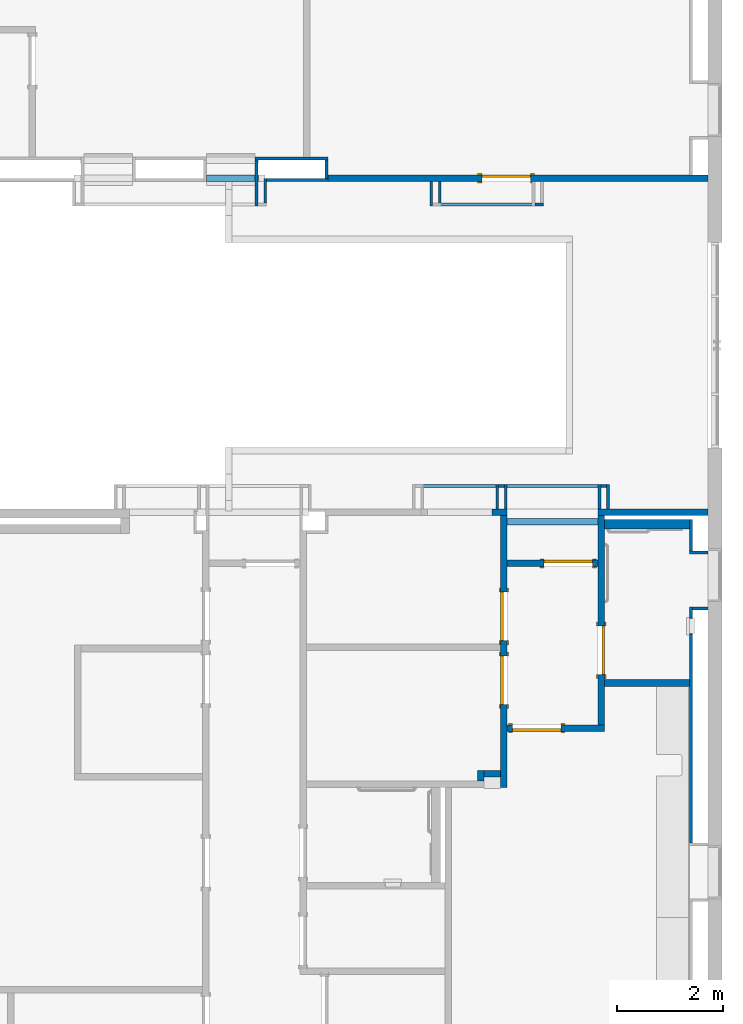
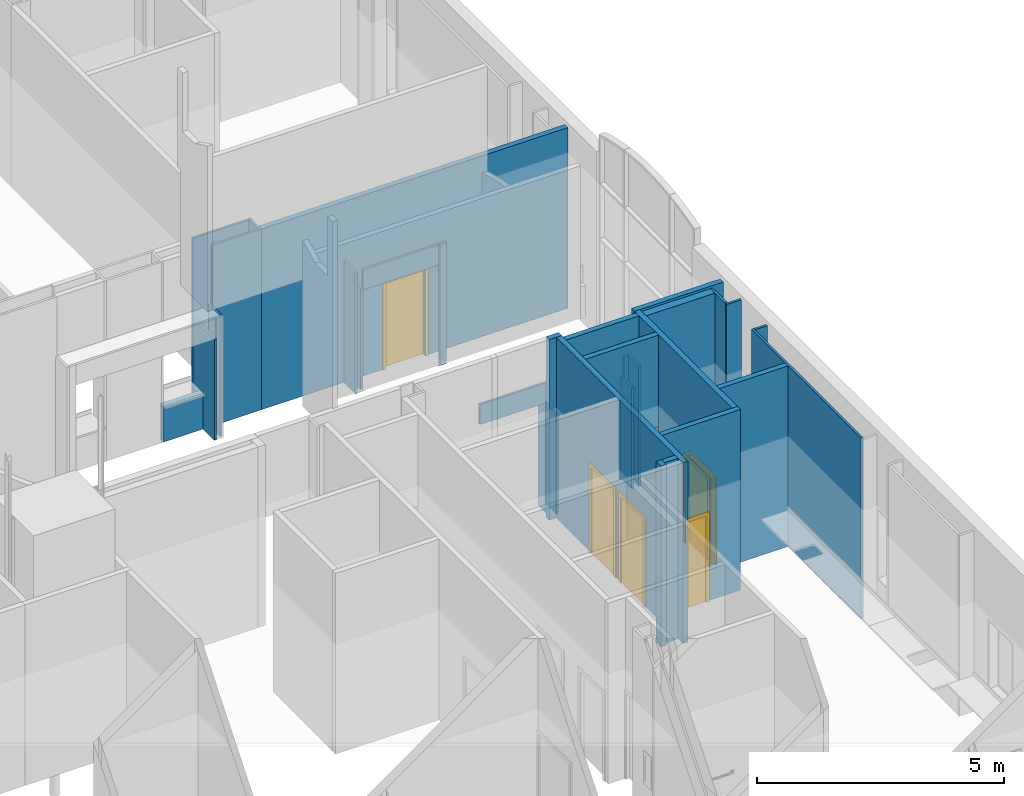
# One storey, part 38 of 87: 33 walls, 6 doors, 7 openings.
"""IFC2X3 building model written with IfcOpenShell, lengths in metres."""

from ifc_helpers import new_model, entity, si_unit, converted_unit, frame, frame_2d, origin, origin_2d_with_axis, place, context, project, spatial, polyline, rectangle, outline, extrude, source, transform, mapped, material, layer, layer_set, layer_usage, type_object, type_shapes, element, fill, save


model = new_model("IFC2X3")

# Units and contexts
model_context = context("Model", 3, precision=1e-09, world=origin())
plan_context = context("Plan", 3, precision=1e-09, world=origin())
ifc_project = project(units=[si_unit("LENGTHUNIT", "METRE"), si_unit("AREAUNIT", "SQUARE_METRE"), si_unit("VOLUMEUNIT", "CUBIC_METRE"), converted_unit("PLANEANGLEUNIT", "DEGREE", entity("IfcRatioMeasure", 0.01745329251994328), si_unit("PLANEANGLEUNIT", "RADIAN"), dimensions=[0, 0, 0, 0, 0, 0, 0]), si_unit("TIMEUNIT", "SECOND")], contexts=[model_context, plan_context])

# Site, building, storey
site_placement = place(None, origin())
site = spatial("IfcSite", under=ifc_project, at=site_placement, Name="Default", CompositionType="ELEMENT")
building_placement = place(site_placement, origin())
building = spatial("IfcBuilding", under=site, at=building_placement, CompositionType="ELEMENT")
storey_placement = place(building_placement, origin())
storey = spatial("IfcBuildingStorey", under=building, at=storey_placement, Name="First Floor", CompositionType="ELEMENT", Elevation=-3.531500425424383e-13)

# Wall, opening, door
ifc_material_1 = material(Name="Plasterboard")
ifc_layer_1 = layer(ifc_material_1, 0.016)
ifc_material_2 = material(Name="Metal - Stud Layer")
ifc_layer_2 = layer(ifc_material_2, 0.092)
ifc_layer_3 = layer(ifc_material_1, 0.016)
ifc_layer_set_1 = layer_set([ifc_layer_1, ifc_layer_2, ifc_layer_3], Name="Basic Wall:Interior - Partition (92mm Stud)")
ifc_layer_usage_1 = layer_usage(ifc_layer_set_1, "AXIS2", "NEGATIVE", 0.062)
wall_1_placement = place(storey_placement, frame((0.1129999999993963, 34.84199999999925, 0.0), z_axis=(0.0, 0.0, 1.0), x_axis=(-1.0, 0.0, 0.0)))
wall_1 = element("IfcWallStandardCase", 1, at=wall_1_placement, inside=storey, material=ifc_layer_usage_1, Name="Basic Wall:Interior - Partition (92mm Stud)", ObjectType="Basic Wall:Interior - Partition (92mm Stud)", context=model_context, shape_type="SweptSolid", body=[
    extrude(rectangle(XDim=7.162999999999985, YDim=0.1239999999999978, at=frame_2d((3.581499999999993, 0.0), x_axis=(-1.0, 0.0))), origin(), (0.0, 0.0, 1.0), 4.46800000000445),
])
opening_1_placement = place(wall_1_placement, frame((4.262999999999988, 0.06199999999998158, 0.0)))
opening_1 = element("IfcOpeningElement", 2, at=opening_1_placement, cuts=wall_1, Name="M_Single-Flush:0915 x 2134mm:0915 x 2134mm:1", ObjectType="Opening", context=model_context, shape_type="SweptSolid", body=[
    extrude(rectangle(XDim=0.9149999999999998, YDim=2.134, at=frame_2d((1.067, 0.4575), x_axis=(0.0, 1.0))), frame((0.0, 0.0, 0.0), z_axis=(0.0, -1.0, 0.0), x_axis=(0.0, 0.0, 1.0)), (0.0, 0.0, 1.0), 0.124),
])
door_style_1 = type_object("IfcDoorStyle", Name="0915 x 2134mm", ConstructionType="NOTDEFINED", OperationType="SINGLE_SWING_RIGHT", ParameterTakesPrecedence=False, Sizeable=False)
shared_shape_1 = source(origin(), model_context, "Body", "SweptSolid", [
    extrude(outline(polyline([(-0.5335, -1.123999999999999), (0.5334999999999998, -1.123999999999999), (0.5334999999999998, 1.086), (0.4574999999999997, 1.086), (0.4574999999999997, -1.048000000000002), (-0.4574999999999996, -1.048000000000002), (-0.4574999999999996, 1.086), (-0.5335, 1.086), (-0.5335, -1.123999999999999)])), frame((0.4575000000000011, 0.1239999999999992, 1.086), z_axis=(0.0, 1.0, 0.0), x_axis=(1.0, 0.0, 0.0)), (0.0, 0.0, 1.0), 0.02499999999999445),
    extrude(outline(polyline([(-1.123999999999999, -0.5334999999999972), (1.085999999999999, -0.5334999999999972), (1.085999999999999, -0.4575000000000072), (-1.048, -0.4575000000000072), (-1.048, 0.4575000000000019), (1.085999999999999, 0.4575000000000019), (1.085999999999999, 0.5335000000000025), (-1.123999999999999, 0.5335000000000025), (-1.123999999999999, -0.5334999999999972)])), frame((0.4575000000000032, -0.02500000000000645, 1.085999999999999), z_axis=(0.0, 1.0, 0.0), x_axis=(0.0, 0.0, -1.0)), (0.0, 0.0, 1.0), 0.02500000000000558),
    extrude(rectangle(XDim=0.051, YDim=0.9149999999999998, at=origin_2d_with_axis()), frame((0.4575000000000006, 0.09849999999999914, 0.0), z_axis=(0.0, 0.0, 1.0), x_axis=(0.0, 1.0, 0.0)), (0.0, 0.0, 1.0), 2.133999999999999),
])
type_shapes(door_style_1, [shared_shape_1])
door_1_placement = place(opening_1_placement, frame((0.0, 0.0, 0.0), z_axis=(0.0, 0.0, 1.0), x_axis=(-1.0, 0.0, 0.0)))
door_1 = element("IfcDoor", 3, at=door_1_placement, inside=storey, type_object=door_style_1, Name="M_Single-Flush:0915 x 2134mm:0915 x 2134mm", ObjectType="0915 x 2134mm", OverallHeight=2.134, OverallWidth=0.9149999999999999, context=model_context, shape_type="MappedRepresentation", body=[
    mapped(shared_shape_1, transform((0.0, 0.0, 0.0), scale=1.0)),
])
fill(opening_1, door_1)

# Walls
ifc_layer_4 = layer(ifc_material_2, 0.038)
ifc_layer_5 = layer(ifc_material_1, 0.016)
ifc_layer_set_2 = layer_set([ifc_layer_4, ifc_layer_5], Name="Basic Wall:Interior - Furring (38 mm Stud)")
ifc_layer_usage_2 = layer_usage(ifc_layer_set_2, "AXIS2", "POSITIVE", -0.027)
wall_2_placement = place(storey_placement, frame((0.1129999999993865, 27.78699999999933, 0.0), z_axis=(0.0, 0.0, 1.0), x_axis=(-1.0, 0.0, 0.0)))
element("IfcWallStandardCase", 4, at=wall_2_placement, inside=storey, material=ifc_layer_usage_2, Name="Basic Wall:Interior - Furring (38 mm Stud)", ObjectType="Basic Wall:Interior - Furring (38 mm Stud)", context=model_context, shape_type="SweptSolid", body=[
    extrude(rectangle(XDim=0.3429999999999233, YDim=0.05399999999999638, at=frame_2d((0.1714999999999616, 0.0), x_axis=(-1.0, 0.0))), origin(), (0.0, 0.0, 1.0), 4.46800000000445),
])
ifc_layer_usage_3 = layer_usage(ifc_layer_set_2, "AXIS2", "POSITIVE", -0.027)
wall_3_placement = place(storey_placement, frame((-0.2030000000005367, 27.81399999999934, 0.0), z_axis=(0.0, 0.0, 1.0), x_axis=(0.0, 1.0, 0.0)))
element("IfcWallStandardCase", 5, at=wall_3_placement, inside=storey, material=ifc_layer_usage_3, Name="Basic Wall:Interior - Furring (38 mm Stud)", ObjectType="Basic Wall:Interior - Furring (38 mm Stud)", context=model_context, shape_type="SweptSolid", body=[
    extrude(rectangle(XDim=0.5999999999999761, YDim=0.05399999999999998, at=frame_2d((0.2999999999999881, 0.0), x_axis=(-1.0, 0.0))), origin(), (0.0, 0.0, 1.0), 4.46800000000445),
])
ifc_layer_usage_4 = layer_usage(ifc_layer_set_1, "AXIS2", "NEGATIVE", 0.062)
wall_4_placement = place(storey_placement, frame((-1.959975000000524, 28.54799999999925, 0.0)))
element("IfcWallStandardCase", 6, at=wall_4_placement, inside=storey, material=ifc_layer_usage_4, Name="Basic Wall:Interior - Partition (92mm Stud)", ObjectType="Basic Wall:Interior - Partition (92mm Stud)", context=model_context, shape_type="SweptSolid", body=[
    extrude(rectangle(XDim=2.072974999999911, YDim=0.1239999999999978, at=frame_2d((1.036487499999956, 0.0), x_axis=(-1.0, 0.0))), origin(), (0.0, 0.0, 1.0), 4.46800000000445),
])
ifc_layer_6 = layer(ifc_material_1, 0.016)
ifc_layer_7 = layer(ifc_material_2, 0.152)
ifc_layer_8 = layer(ifc_material_1, 0.016)
ifc_layer_set_3 = layer_set([ifc_layer_6, ifc_layer_7, ifc_layer_8], Name="Basic Wall:Interior - Plumbing (152mm Stud)")
ifc_layer_usage_5 = layer_usage(ifc_layer_set_3, "AXIS2", "NEGATIVE", 0.092)
wall_5_placement = place(storey_placement, frame((-0.2300000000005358, 28.32199999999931, 0.0), z_axis=(0.0, 0.0, 1.0), x_axis=(-1.0, 0.0, 0.0)))
element("IfcWallStandardCase", 7, at=wall_5_placement, inside=storey, material=ifc_layer_usage_5, Name="Basic Wall:Interior - Plumbing (152mm Stud)", ObjectType="Basic Wall:Interior - Plumbing (152mm Stud)", context=model_context, shape_type="SweptSolid", body=[
    extrude(rectangle(XDim=1.605974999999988, YDim=0.1840000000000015, at=frame_2d((0.8029874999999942, 0.0), x_axis=(-1.0, 0.0))), origin(), (0.0, 0.0, 1.0), 4.46800000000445),
])

# Wall, opening
ifc_layer_usage_6 = layer_usage(ifc_layer_set_2, "AXIS2", "POSITIVE", -0.027)
wall_6_placement = place(storey_placement, frame((-0.203000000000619, 22.31399999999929, 0.0), z_axis=(0.0, 0.0, 1.0), x_axis=(0.0, 1.0, 0.0)))
wall_6 = element("IfcWallStandardCase", 8, at=wall_6_placement, inside=storey, material=ifc_layer_usage_6, Name="Basic Wall:Interior - Furring (38 mm Stud)", ObjectType="Basic Wall:Interior - Furring (38 mm Stud)", context=model_context, shape_type="SweptSolid", body=[
    extrude(rectangle(XDim=4.446000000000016, YDim=0.05399999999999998, at=frame_2d((2.223000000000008, 0.0), x_axis=(-1.0, 0.0))), origin(), (0.0, 0.0, 1.0), 4.46800000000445),
])
opening_2_placement = place(wall_6_placement, origin())
element("IfcOpeningElement", 9, at=opening_2_placement, cuts=wall_6, ObjectType="Opening", context=model_context, shape_type="SweptSolid", body=[
    extrude(rectangle(XDim=1.362075, YDim=0.2984500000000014, at=frame_2d((0.0, 0.0), x_axis=(0.0, 1.0))), frame((4.086900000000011, -0.06190000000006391, 1.041399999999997), z_axis=(0.0, 1.0, 0.0), x_axis=(1.0, 0.0, 0.0)), (0.0, 0.0, 1.0), 0.1524000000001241),
])

# Wall
ifc_layer_usage_7 = layer_usage(ifc_layer_set_2, "AXIS2", "POSITIVE", -0.027)
wall_7_placement = place(storey_placement, frame((-0.1760000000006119, 26.73299999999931, 0.0)))
element("IfcWallStandardCase", 10, at=wall_7_placement, inside=storey, material=ifc_layer_usage_7, Name="Basic Wall:Interior - Furring (38 mm Stud)", ObjectType="Basic Wall:Interior - Furring (38 mm Stud)", context=model_context, shape_type="SweptSolid", body=[
    extrude(rectangle(XDim=0.288999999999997, YDim=0.05399999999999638, at=frame_2d((0.1444999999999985, 0.0), x_axis=(-1.0, 0.0))), origin(), (0.0, 0.0, 1.0), 4.46800000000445),
])

# Wall, opening, door
ifc_layer_usage_8 = layer_usage(ifc_layer_set_1, "AXIS2", "NEGATIVE", 0.062)
wall_8_placement = place(storey_placement, frame((-3.669975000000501, 24.4779999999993, 0.0)))
wall_8 = element("IfcWallStandardCase", 11, at=wall_8_placement, inside=storey, material=ifc_layer_usage_8, Name="Basic Wall:Interior - Partition (92mm Stud)", ObjectType="Basic Wall:Interior - Partition (92mm Stud)", context=model_context, shape_type="SweptSolid", body=[
    extrude(rectangle(XDim=1.833999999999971, YDim=0.1239999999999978, at=frame_2d((0.9169999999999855, 0.0), x_axis=(-1.0, 0.0))), origin(), (0.0, 0.0, 1.0), 4.46800000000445),
])
opening_3_placement = place(wall_8_placement, frame((1.015000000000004, 0.06200000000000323, 0.0)))
opening_3 = element("IfcOpeningElement", 12, at=opening_3_placement, cuts=wall_8, Name="M_Single-Flush:0915 x 2134mm:0915 x 2134mm:1", ObjectType="Opening", context=model_context, shape_type="SweptSolid", body=[
    extrude(rectangle(XDim=0.9149999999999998, YDim=2.134, at=frame_2d((1.067, 0.4574999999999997), x_axis=(0.0, 1.0))), frame((0.0, 0.0, 0.0), z_axis=(0.0, -1.0, 0.0), x_axis=(0.0, 0.0, 1.0)), (0.0, 0.0, 1.0), 0.124),
])
door_2_placement = place(opening_3_placement, frame((0.0, 0.0, 0.0), z_axis=(0.0, 0.0, 1.0), x_axis=(-1.0, 0.0, 0.0)))
door_2 = element("IfcDoor", 13, at=door_2_placement, inside=storey, type_object=door_style_1, Name="M_Single-Flush:0915 x 2134mm:0915 x 2134mm", ObjectType="0915 x 2134mm", OverallHeight=2.134, OverallWidth=0.9149999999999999, context=model_context, shape_type="MappedRepresentation", body=[
    mapped(shared_shape_1, transform((0.0, 0.0, 0.0), scale=1.0)),
])
fill(opening_3, door_2)

ifc_layer_usage_9 = layer_usage(ifc_layer_set_1, "AXIS2", "NEGATIVE", 0.062)
wall_9_placement = place(storey_placement, frame((-1.89797500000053, 24.53999999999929, 0.0), z_axis=(0.0, 0.0, 1.0), x_axis=(0.0, 1.0, 0.0)))
wall_9 = element("IfcWallStandardCase", 14, at=wall_9_placement, inside=storey, material=ifc_layer_usage_9, Name="Basic Wall:Interior - Partition (92mm Stud)", ObjectType="Basic Wall:Interior - Partition (92mm Stud)", context=model_context, shape_type="SweptSolid", body=[
    extrude(rectangle(XDim=3.945999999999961, YDim=0.124, at=frame_2d((1.97299999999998, 0.0), x_axis=(-1.0, 0.0))), origin(), (0.0, 0.0, 1.0), 4.46800000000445),
])
opening_4_placement = place(wall_9_placement, frame((1.864999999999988, 0.06199999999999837, 0.0)))
opening_4 = element("IfcOpeningElement", 15, at=opening_4_placement, cuts=wall_9, Name="M_Single-Flush:0915 x 2134mm:0915 x 2134mm:1", ObjectType="Opening", context=model_context, shape_type="SweptSolid", body=[
    extrude(rectangle(XDim=0.9149999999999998, YDim=2.134, at=frame_2d((1.067, 0.4575), x_axis=(0.0, 1.0))), frame((0.0, 0.0, 0.0), z_axis=(0.0, -1.0, 0.0), x_axis=(0.0, 0.0, 1.0)), (0.0, 0.0, 1.0), 0.124),
])
door_3_placement = place(opening_4_placement, frame((0.0, 0.0, 0.0), z_axis=(0.0, 0.0, 1.0), x_axis=(-1.0, 0.0, 0.0)))
door_3 = element("IfcDoor", 16, at=door_3_placement, inside=storey, type_object=door_style_1, Name="M_Single-Flush:0915 x 2134mm:0915 x 2134mm", ObjectType="0915 x 2134mm", OverallHeight=2.134, OverallWidth=0.9149999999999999, context=model_context, shape_type="MappedRepresentation", body=[
    mapped(shared_shape_1, transform((0.0, 0.0, 0.0), scale=1.0)),
])
fill(opening_4, door_3)

# Wall
ifc_layer_usage_10 = layer_usage(ifc_layer_set_1, "AXIS2", "NEGATIVE", 0.062)
wall_10_placement = place(storey_placement, frame((-1.835975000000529, 25.32799999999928, 0.0)))
element("IfcWallStandardCase", 17, at=wall_10_placement, inside=storey, material=ifc_layer_usage_10, Name="Basic Wall:Interior - Partition (92mm Stud)", ObjectType="Basic Wall:Interior - Partition (92mm Stud)", context=model_context, shape_type="SweptSolid", body=[
    extrude(rectangle(XDim=1.605974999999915, YDim=0.1239999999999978, at=frame_2d((0.8029874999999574, 0.0), x_axis=(-1.0, 0.0))), origin(), (0.0, 0.0, 1.0), 4.46800000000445),
])

# Wall, openings, doors
ifc_layer_usage_11 = layer_usage(ifc_layer_set_1, "AXIS2", "NEGATIVE", 0.062)
wall_11_placement = place(storey_placement, frame((-3.731975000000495, 28.48599999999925, 0.0), z_axis=(0.0, 0.0, 1.0), x_axis=(0.0, -1.0, 0.0)))
wall_11 = element("IfcWallStandardCase", 18, at=wall_11_placement, inside=storey, material=ifc_layer_usage_11, Name="Basic Wall:Interior - Partition (92mm Stud)", ObjectType="Basic Wall:Interior - Partition (92mm Stud)", context=model_context, shape_type="SweptSolid", body=[
    extrude(rectangle(XDim=5.125999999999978, YDim=0.124, at=frame_2d((2.562999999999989, 0.0), x_axis=(-1.0, 0.0))), origin(), (0.0, 0.0, 1.0), 4.468000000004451),
])
opening_5_placement = place(wall_11_placement, frame((2.361999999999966, 0.06199999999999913, 0.0)))
opening_5 = element("IfcOpeningElement", 19, at=opening_5_placement, cuts=wall_11, Name="M_Single-Flush:0915 x 2134mm:0915 x 2134mm:1", ObjectType="Opening", context=model_context, shape_type="SweptSolid", body=[
    extrude(rectangle(XDim=0.9149999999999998, YDim=2.134, at=frame_2d((1.067, 0.4575000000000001), x_axis=(0.0, -1.0))), frame((0.0, 0.0, 0.0), z_axis=(0.0, -1.0, 0.0), x_axis=(0.0, 0.0, 1.0)), (0.0, 0.0, 1.0), 0.124),
])
opening_6_placement = place(wall_11_placement, frame((3.560999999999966, 0.06199999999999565, 0.0)))
opening_6 = element("IfcOpeningElement", 20, at=opening_6_placement, cuts=wall_11, Name="M_Single-Flush:0915 x 2134mm:0915 x 2134mm:1", ObjectType="Opening", context=model_context, shape_type="SweptSolid", body=[
    extrude(rectangle(XDim=0.9149999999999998, YDim=2.134, at=frame_2d((1.067, 0.4575), x_axis=(0.0, 1.0))), frame((0.0, 0.0, 0.0), z_axis=(0.0, -1.0, 0.0), x_axis=(0.0, 0.0, 1.0)), (0.0, 0.0, 1.0), 0.124),
])
door_4_placement = place(opening_6_placement, frame((0.0, 0.0, 0.0), z_axis=(0.0, 0.0, 1.0), x_axis=(-1.0, 0.0, 0.0)))
door_4 = element("IfcDoor", 21, at=door_4_placement, inside=storey, type_object=door_style_1, Name="M_Single-Flush:0915 x 2134mm:0915 x 2134mm", ObjectType="0915 x 2134mm", OverallHeight=2.134, OverallWidth=0.9149999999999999, context=model_context, shape_type="MappedRepresentation", body=[
    mapped(shared_shape_1, transform((0.0, 0.0, 0.0), scale=1.0)),
])
fill(opening_6, door_4)
door_style_2 = type_object("IfcDoorStyle", Name="0915 x 2134mm", ConstructionType="NOTDEFINED", OperationType="SINGLE_SWING_LEFT", ParameterTakesPrecedence=False, Sizeable=False)
shared_shape_2 = source(origin(), model_context, "Body", "SweptSolid", [
    extrude(outline(polyline([(-0.5335, -1.123999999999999), (0.5334999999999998, -1.123999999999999), (0.5334999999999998, 1.086), (0.4574999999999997, 1.086), (0.4574999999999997, -1.048000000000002), (-0.4574999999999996, -1.048000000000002), (-0.4574999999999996, 1.086), (-0.5335, 1.086), (-0.5335, -1.123999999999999)])), frame((0.4575000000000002, 0.1489999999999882, 1.086), z_axis=(0.0, -1.0, 0.0), x_axis=(-1.0, 0.0, 0.0)), (0.0, 0.0, 1.0), 0.02499999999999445),
    extrude(outline(polyline([(-1.123999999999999, -0.5334999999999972), (1.085999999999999, -0.5334999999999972), (1.085999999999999, -0.4575000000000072), (-1.048, -0.4575000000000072), (-1.048, 0.4575000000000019), (1.085999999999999, 0.4575000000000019), (1.085999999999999, 0.5335000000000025), (-1.123999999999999, 0.5335000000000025), (-1.123999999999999, -0.5334999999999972)])), frame((0.4574999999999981, 0.0, 1.085999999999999), z_axis=(0.0, -1.0, 0.0), x_axis=(0.0, 0.0, -1.0)), (0.0, 0.0, 1.0), 0.02500000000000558),
    extrude(rectangle(XDim=0.9149999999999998, YDim=0.051, at=origin_2d_with_axis()), frame((0.4575000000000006, 0.09849999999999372, 0.0)), (0.0, 0.0, 1.0), 2.133999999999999),
])
type_shapes(door_style_2, [shared_shape_2])
door_5_placement = place(opening_5_placement, frame((0.0, 0.0, 0.0), z_axis=(0.0, 0.0, 1.0), x_axis=(-1.0, 0.0, 0.0)))
door_5 = element("IfcDoor", 22, at=door_5_placement, inside=storey, type_object=door_style_2, Name="M_Single-Flush:0915 x 2134mm:0915 x 2134mm", ObjectType="0915 x 2134mm", OverallHeight=2.134, OverallWidth=0.9149999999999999, context=model_context, shape_type="MappedRepresentation", body=[
    mapped(shared_shape_2, transform((0.0, 0.0, 0.0), scale=1.0)),
])
fill(opening_5, door_5)

# Walls
ifc_layer_usage_12 = layer_usage(ifc_layer_set_1, "AXIS2", "NEGATIVE", 0.062)
wall_12_placement = place(storey_placement, frame((-3.793975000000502, 23.61949999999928, 0.0), z_axis=(0.0, 0.0, 1.0), x_axis=(-1.0, 0.0, 0.0)))
element("IfcWallStandardCase", 23, at=wall_12_placement, inside=storey, material=ifc_layer_usage_12, Name="Basic Wall:Interior - Partition (92mm Stud)", ObjectType="Basic Wall:Interior - Partition (92mm Stud)", context=model_context, shape_type="SweptSolid", body=[
    extrude(rectangle(XDim=0.3160000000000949, YDim=0.1239999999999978, at=frame_2d((0.1580000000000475, 0.0), x_axis=(-1.0, 0.0))), origin(), (0.0, 0.0, 1.0), 4.46800000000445),
])
ifc_layer_usage_13 = layer_usage(ifc_layer_set_1, "AXIS2", "NEGATIVE", 0.062)
wall_13_placement = place(storey_placement, frame((-4.171975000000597, 23.68149999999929, 0.0), z_axis=(0.0, 0.0, 1.0), x_axis=(0.0, -1.0, 0.0)))
element("IfcWallStandardCase", 24, at=wall_13_placement, inside=storey, material=ifc_layer_usage_13, Name="Basic Wall:Interior - Partition (92mm Stud)", ObjectType="Basic Wall:Interior - Partition (92mm Stud)", context=model_context, shape_type="SweptSolid", body=[
    extrude(rectangle(XDim=0.1975000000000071, YDim=0.124, at=frame_2d((0.09875000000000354, 0.0), x_axis=(-1.0, 0.0))), origin(), (0.0, 0.0, 1.0), 4.46800000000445),
])
ifc_layer_usage_14 = layer_usage(ifc_layer_set_1, "AXIS2", "NEGATIVE", 0.062)
wall_14_placement = place(storey_placement, frame((-3.956852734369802, 28.54799999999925, 0.0)))
element("IfcWallStandardCase", 25, at=wall_14_placement, inside=storey, material=ifc_layer_usage_14, Name="Basic Wall:Interior - Partition (92mm Stud)", ObjectType="Basic Wall:Interior - Partition (92mm Stud)", context=model_context, shape_type="SweptSolid", body=[
    extrude(rectangle(XDim=0.2868777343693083, YDim=0.1239999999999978, at=frame_2d((0.1434388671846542, 0.0), x_axis=(-1.0, 0.0))), origin(), (0.0, 0.0, 1.0), 4.468000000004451),
])

# Wall, opening, door
ifc_layer_usage_15 = layer_usage(ifc_layer_set_1, "AXIS2", "NEGATIVE", 0.062)
wall_15_placement = place(storey_placement, frame((-1.959975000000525, 27.58199999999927, 0.0), z_axis=(0.0, 0.0, 1.0), x_axis=(-1.0, 0.0, 0.0)))
wall_15 = element("IfcWallStandardCase", 26, at=wall_15_placement, inside=storey, material=ifc_layer_usage_15, Name="Basic Wall:Interior - Partition (92mm Stud)", ObjectType="Basic Wall:Interior - Partition (92mm Stud)", context=model_context, shape_type="SweptSolid", body=[
    extrude(rectangle(XDim=1.709999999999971, YDim=0.1239999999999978, at=frame_2d((0.8549999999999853, 0.0), x_axis=(-1.0, 0.0))), origin(), (0.0, 0.0, 1.0), 4.46800000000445),
])
opening_7_placement = place(wall_15_placement, frame((1.015000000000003, 0.0619999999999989, 0.0)))
opening_7 = element("IfcOpeningElement", 27, at=opening_7_placement, cuts=wall_15, Name="M_Single-Flush:0915 x 2134mm:0915 x 2134mm:1", ObjectType="Opening", context=model_context, shape_type="SweptSolid", body=[
    extrude(rectangle(XDim=0.9149999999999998, YDim=2.134, at=frame_2d((1.067, 0.4574999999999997), x_axis=(0.0, 1.0))), frame((0.0, 0.0, 0.0), z_axis=(0.0, -1.0, 0.0), x_axis=(0.0, 0.0, 1.0)), (0.0, 0.0, 1.0), 0.124),
])
door_6_placement = place(opening_7_placement, frame((0.0, 0.0, 0.0), z_axis=(0.0, 0.0, 1.0), x_axis=(-1.0, 0.0, 0.0)))
door_6 = element("IfcDoor", 28, at=door_6_placement, inside=storey, type_object=door_style_1, Name="M_Single-Flush:0915 x 2134mm:0915 x 2134mm", ObjectType="0915 x 2134mm", OverallHeight=2.134, OverallWidth=0.9149999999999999, context=model_context, shape_type="MappedRepresentation", body=[
    mapped(shared_shape_1, transform((0.0, 0.0, 0.0), scale=1.0)),
])
fill(opening_7, door_6)

# Walls
ifc_layer_usage_16 = layer_usage(ifc_layer_set_1, "AXIS2", "NEGATIVE", 0.062)
wall_16_placement = place(storey_placement, frame((-1.959975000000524, 28.36549999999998, 2.4), z_axis=(0.0, 0.0, 1.0), x_axis=(-1.0, 0.0, 0.0)))
element("IfcWallStandardCase", 29, at=wall_16_placement, inside=storey, material=ifc_layer_usage_16, Name="Basic Wall:Interior - Partition (92mm Stud)", ObjectType="Basic Wall:Interior - Partition (92mm Stud)", context=model_context, shape_type="SweptSolid", body=[
    extrude(rectangle(XDim=1.709999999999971, YDim=0.1239999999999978, at=frame_2d((0.8549999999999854, 0.0), x_axis=(-1.0, 0.0))), origin(), (0.0, 0.0, 1.0), 2.06800000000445),
])
ifc_layer_usage_17 = layer_usage(ifc_layer_set_2, "AXIS2", "POSITIVE", -0.027)
wall_17_placement = place(storey_placement, frame((-3.696975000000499, 29.06999999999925, 0.0), z_axis=(0.0, 0.0, 1.0), x_axis=(0.0, -1.0, 0.0)))
element("IfcWallStandardCase", 30, at=wall_17_placement, inside=storey, material=ifc_layer_usage_17, Name="Basic Wall:Interior - Furring (38 mm Stud)", ObjectType="Basic Wall:Interior - Furring (38 mm Stud)", context=model_context, shape_type="SweptSolid", body=[
    extrude(rectangle(XDim=0.459999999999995, YDim=0.05399999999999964, at=frame_2d((0.2299999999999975, 0.0), x_axis=(-1.0, 0.0))), origin(), (0.0, 0.0, 1.0), 2.5),
])
ifc_layer_usage_18 = layer_usage(ifc_layer_set_2, "AXIS2", "POSITIVE", -0.027)
wall_18_placement = place(storey_placement, frame((-3.857975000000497, 28.60999999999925, 0.0), z_axis=(0.0, 0.0, 1.0), x_axis=(0.0, 1.0, 0.0)))
element("IfcWallStandardCase", 31, at=wall_18_placement, inside=storey, material=ifc_layer_usage_18, Name="Basic Wall:Interior - Furring (38 mm Stud)", ObjectType="Basic Wall:Interior - Furring (38 mm Stud)", context=model_context, shape_type="SweptSolid", body=[
    extrude(rectangle(XDim=0.459999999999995, YDim=0.05399999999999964, at=frame_2d((0.2299999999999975, 0.0), x_axis=(-1.0, 0.0))), origin(), (0.0, 0.0, 1.0), 2.5),
])
ifc_layer_usage_19 = layer_usage(ifc_layer_set_2, "AXIS2", "POSITIVE", -0.027)
wall_19_placement = place(storey_placement, frame((-3.830975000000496, 29.04299999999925, 0.0)))
element("IfcWallStandardCase", 32, at=wall_19_placement, inside=storey, material=ifc_layer_usage_19, Name="Basic Wall:Interior - Furring (38 mm Stud)", ObjectType="Basic Wall:Interior - Furring (38 mm Stud)", context=model_context, shape_type="SweptSolid", body=[
    extrude(rectangle(XDim=0.1069999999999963, YDim=0.05399999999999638, at=frame_2d((0.05349999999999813, 0.0), x_axis=(-1.0, 0.0))), origin(), (0.0, 0.0, 1.0), 2.5),
])
ifc_layer_usage_20 = layer_usage(ifc_layer_set_2, "AXIS2", "POSITIVE", -0.027)
wall_20_placement = place(storey_placement, frame((-1.771975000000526, 29.06999999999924, 0.0), z_axis=(0.0, 0.0, 1.0), x_axis=(0.0, -1.0, 0.0)))
element("IfcWallStandardCase", 33, at=wall_20_placement, inside=storey, material=ifc_layer_usage_20, Name="Basic Wall:Interior - Furring (38 mm Stud)", ObjectType="Basic Wall:Interior - Furring (38 mm Stud)", context=model_context, shape_type="SweptSolid", body=[
    extrude(rectangle(XDim=0.4599999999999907, YDim=0.05400000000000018, at=frame_2d((0.2299999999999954, 0.0), x_axis=(-1.0, 0.0))), origin(), (0.0, 0.0, 1.0), 3.0),
])
ifc_layer_usage_21 = layer_usage(ifc_layer_set_2, "AXIS2", "POSITIVE", -0.027)
wall_21_placement = place(storey_placement, frame((-1.932975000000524, 28.60999999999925, 0.0), z_axis=(0.0, 0.0, 1.0), x_axis=(0.0, 1.0, 0.0)))
element("IfcWallStandardCase", 34, at=wall_21_placement, inside=storey, material=ifc_layer_usage_21, Name="Basic Wall:Interior - Furring (38 mm Stud)", ObjectType="Basic Wall:Interior - Furring (38 mm Stud)", context=model_context, shape_type="SweptSolid", body=[
    extrude(rectangle(XDim=0.4599999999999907, YDim=0.05400000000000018, at=frame_2d((0.2299999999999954, 0.0), x_axis=(-1.0, 0.0))), origin(), (0.0, 0.0, 1.0), 2.5),
])
ifc_layer_usage_22 = layer_usage(ifc_layer_set_2, "AXIS2", "POSITIVE", -0.027)
wall_22_placement = place(storey_placement, frame((-1.932975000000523, 29.04299999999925, 0.0)))
element("IfcWallStandardCase", 35, at=wall_22_placement, inside=storey, material=ifc_layer_usage_22, Name="Basic Wall:Interior - Furring (38 mm Stud)", ObjectType="Basic Wall:Interior - Furring (38 mm Stud)", context=model_context, shape_type="SweptSolid", body=[
    extrude(rectangle(XDim=0.1069999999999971, YDim=0.05400000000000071, at=frame_2d((0.08049999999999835, 0.0), x_axis=(-1.0, 0.0))), origin(), (0.0, 0.0, 1.0), 3.0),
])
ifc_layer_usage_23 = layer_usage(ifc_layer_set_1, "AXIS2", "POSITIVE", -0.062)
wall_23_placement = place(storey_placement, frame((-8.358000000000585, 34.8419999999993, 0.0), z_axis=(0.0, 0.0, 1.0), x_axis=(-1.0, 0.0, 0.0)))
element("IfcWallStandardCase", 36, at=wall_23_placement, inside=storey, material=ifc_layer_usage_23, Name="Basic Wall:Interior - Partition (92mm Stud)", ObjectType="Basic Wall:Interior - Partition (92mm Stud)", context=model_context, shape_type="SweptSolid", body=[
    extrude(rectangle(XDim=0.9820000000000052, YDim=0.1239999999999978, at=frame_2d((0.4910000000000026, 0.0), x_axis=(-1.0, 0.0))), origin(), (0.0, 0.0, 1.0), 0.8900000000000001),
])
ifc_layer_usage_24 = layer_usage(ifc_layer_set_2, "AXIS2", "NEGATIVE", 0.027)
wall_24_placement = place(storey_placement, frame((-7.050000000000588, 35.21299999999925, 0.0), z_axis=(0.0, 0.0, 1.0), x_axis=(-1.0, 0.0, 0.0)))
element("IfcWallStandardCase", 37, at=wall_24_placement, inside=storey, material=ifc_layer_usage_24, Name="Basic Wall:Interior - Furring (38 mm Stud)", ObjectType="Basic Wall:Interior - Furring (38 mm Stud)", context=model_context, shape_type="SweptSolid", body=[
    extrude(rectangle(XDim=1.369999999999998, YDim=0.05399999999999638, at=frame_2d((0.6849999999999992, 0.0), x_axis=(-1.0, 0.0))), origin(), (0.0, 0.0, 1.0), 4.46800000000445),
])
ifc_layer_usage_25 = layer_usage(ifc_layer_set_2, "AXIS2", "NEGATIVE", 0.027)
wall_25_placement = place(storey_placement, frame((-8.393000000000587, 35.18599999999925, 0.0), z_axis=(0.0, 0.0, 1.0), x_axis=(0.0, -1.0, 0.0)))
element("IfcWallStandardCase", 38, at=wall_25_placement, inside=storey, material=ifc_layer_usage_25, Name="Basic Wall:Interior - Furring (38 mm Stud)", ObjectType="Basic Wall:Interior - Furring (38 mm Stud)", context=model_context, shape_type="SweptSolid", body=[
    extrude(rectangle(XDim=0.865999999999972, YDim=0.05400000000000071, at=frame_2d((0.432999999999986, 0.0), x_axis=(-1.0, 0.0))), origin(), (0.0, 0.0, 1.0), 2.5),
])
ifc_layer_usage_26 = layer_usage(ifc_layer_set_2, "AXIS2", "NEGATIVE", 0.027)
wall_26_placement = place(storey_placement, frame((-8.232000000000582, 34.37399999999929, 0.0), z_axis=(0.0, 0.0, 1.0), x_axis=(0.0, 1.0, 0.0)))
element("IfcWallStandardCase", 39, at=wall_26_placement, inside=storey, material=ifc_layer_usage_26, Name="Basic Wall:Interior - Furring (38 mm Stud)", ObjectType="Basic Wall:Interior - Furring (38 mm Stud)", context=model_context, shape_type="SweptSolid", body=[
    extrude(rectangle(XDim=0.4599999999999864, YDim=0.05400000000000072, at=frame_2d((0.2299999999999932, 0.0), x_axis=(-1.0, 0.0))), origin(), (0.0, 0.0, 1.0), 3.0),
])
ifc_layer_usage_27 = layer_usage(ifc_layer_set_2, "AXIS2", "NEGATIVE", 0.027)
wall_27_placement = place(storey_placement, frame((-8.232000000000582, 34.80699999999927, 0.0)))
element("IfcWallStandardCase", 40, at=wall_27_placement, inside=storey, material=ifc_layer_usage_27, Name="Basic Wall:Interior - Furring (38 mm Stud)", ObjectType="Basic Wall:Interior - Furring (38 mm Stud)", context=model_context, shape_type="SweptSolid", body=[
    extrude(rectangle(XDim=1.154999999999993, YDim=0.05400000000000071, at=frame_2d((0.6044999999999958, 0.0), x_axis=(-1.0, 0.0))), origin(), (0.0, 0.0, 1.0), 4.46800000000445),
])
ifc_layer_usage_28 = layer_usage(ifc_layer_set_2, "AXIS2", "NEGATIVE", 0.027)
wall_28_placement = place(storey_placement, frame((-7.077000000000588, 34.83399999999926, 0.0), z_axis=(0.0, 0.0, 1.0), x_axis=(0.0, 1.0, 0.0)))
element("IfcWallStandardCase", 41, at=wall_28_placement, inside=storey, material=ifc_layer_usage_28, Name="Basic Wall:Interior - Furring (38 mm Stud)", ObjectType="Basic Wall:Interior - Furring (38 mm Stud)", context=model_context, shape_type="SweptSolid", body=[
    extrude(rectangle(XDim=0.3519999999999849, YDim=0.05400000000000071, at=frame_2d((0.1759999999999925, 0.0), x_axis=(-1.0, 0.0))), origin(), (0.0, 0.0, 1.0), 4.46800000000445),
])
ifc_layer_usage_29 = layer_usage(ifc_layer_set_2, "AXIS2", "NEGATIVE", 0.027)
wall_29_placement = place(storey_placement, frame((-5.101500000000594, 34.77999999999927, 0.0), z_axis=(0.0, 0.0, 1.0), x_axis=(0.0, -1.0, 0.0)))
element("IfcWallStandardCase", 42, at=wall_29_placement, inside=storey, material=ifc_layer_usage_29, Name="Basic Wall:Interior - Furring (38 mm Stud)", ObjectType="Basic Wall:Interior - Furring (38 mm Stud)", context=model_context, shape_type="SweptSolid", body=[
    extrude(rectangle(XDim=0.4599999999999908, YDim=0.05400000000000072, at=frame_2d((0.2299999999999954, 0.0), x_axis=(-1.0, 0.0))), origin(), (0.0, 0.0, 1.0), 3.0),
])
ifc_layer_usage_30 = layer_usage(ifc_layer_set_2, "AXIS2", "NEGATIVE", 0.027)
wall_30_placement = place(storey_placement, frame((-4.940500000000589, 34.37399999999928, 0.0), z_axis=(0.0, 0.0, 1.0), x_axis=(0.0, 1.0, 0.0)))
element("IfcWallStandardCase", 43, at=wall_30_placement, inside=storey, material=ifc_layer_usage_30, Name="Basic Wall:Interior - Furring (38 mm Stud)", ObjectType="Basic Wall:Interior - Furring (38 mm Stud)", context=model_context, shape_type="SweptSolid", body=[
    extrude(rectangle(XDim=0.40599999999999, YDim=0.05400000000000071, at=frame_2d((0.202999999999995, 0.0), x_axis=(-1.0, 0.0))), origin(), (0.0, 0.0, 1.0), 2.5),
])
ifc_layer_usage_31 = layer_usage(ifc_layer_set_2, "AXIS2", "NEGATIVE", 0.027)
wall_31_placement = place(storey_placement, frame((-3.176500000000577, 34.34699999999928, 0.0)))
element("IfcWallStandardCase", 44, at=wall_31_placement, inside=storey, material=ifc_layer_usage_31, Name="Basic Wall:Interior - Furring (38 mm Stud)", ObjectType="Basic Wall:Interior - Furring (38 mm Stud)", context=model_context, shape_type="SweptSolid", body=[
    extrude(rectangle(XDim=0.1610000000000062, YDim=0.05400000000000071, at=frame_2d((0.1075000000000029, 0.0), x_axis=(-1.0, 0.0))), origin(), (0.0, 0.0, 1.0), 3.0),
])
ifc_layer_usage_32 = layer_usage(ifc_layer_set_2, "AXIS2", "NEGATIVE", 0.027)
wall_32_placement = place(storey_placement, frame((-4.940500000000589, 34.34699999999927, 2.5)))
element("IfcWallStandardCase", 45, at=wall_32_placement, inside=storey, material=ifc_layer_usage_32, Name="Basic Wall:Interior - Furring (38 mm Stud)", ObjectType="Basic Wall:Interior - Furring (38 mm Stud)", context=model_context, shape_type="SweptSolid", body=[
    extrude(rectangle(XDim=1.76400000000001, YDim=0.05399999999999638, at=frame_2d((0.882000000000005, 0.0), x_axis=(-1.0, 0.0))), origin(), (0.0, 0.0, 1.0), 0.5),
])
ifc_layer_usage_33 = layer_usage(ifc_layer_set_2, "AXIS2", "POSITIVE", -0.027)
wall_33_placement = place(storey_placement, frame((-5.270722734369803, 29.04299999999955, 2.5)))
element("IfcWallStandardCase", 46, at=wall_33_placement, inside=storey, material=ifc_layer_usage_33, Name="Basic Wall:Interior - Furring (38 mm Stud)", ObjectType="Basic Wall:Interior - Furring (38 mm Stud)", context=model_context, shape_type="SweptSolid", body=[
    extrude(rectangle(XDim=3.337747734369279, YDim=0.05399999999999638, at=frame_2d((1.66887386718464, 0.0), x_axis=(-1.0, 0.0))), origin(), (0.0, 0.0, 1.0), 0.5),
])

save(model, "model.ifc")
